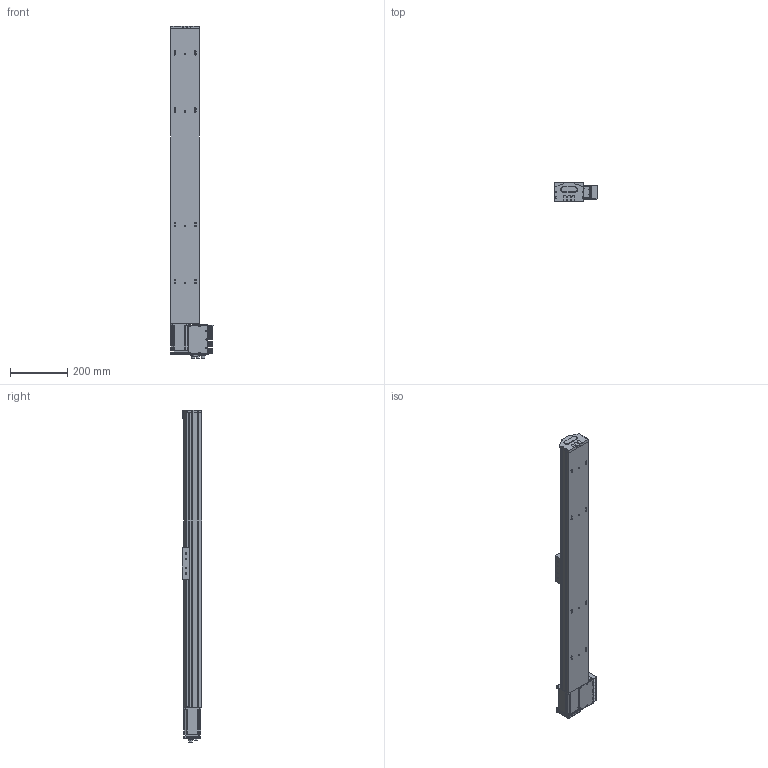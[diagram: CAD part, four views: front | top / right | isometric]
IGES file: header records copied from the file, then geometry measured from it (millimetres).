
Start section: SolidWorks IGES file using analytic representation for surfaces
Global section: file name: C:\Documents and Settings\1EDPI\Mes documents\yanize\S 10 TSH MD\S 10 TSH MD S800.IGS; native system: SolidWorks 2010; preprocessor: SolidWorks 2010; author: 1EDPI; date: 120829.145159; units: millimetre
Bounding box: 148.26 x 66.75 x 1161.6 mm (x, y, z)
Surface area: 726392.3 mm2 (no closed solid volume)
Topology: 0 solids, 0 shells, 1726 faces, 23592 edges, 23564 vertices
Faces by surface type: revolution 924, bspline 802
